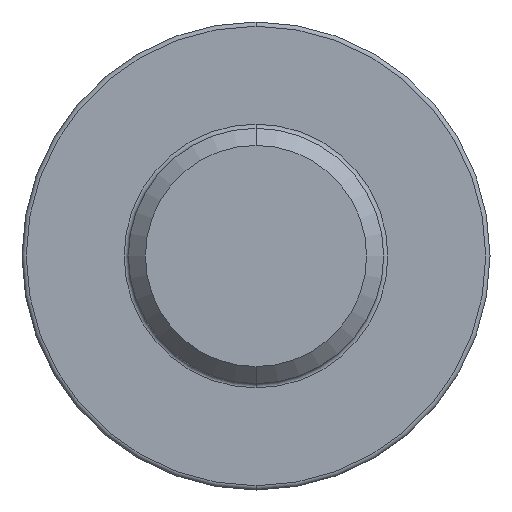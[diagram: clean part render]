
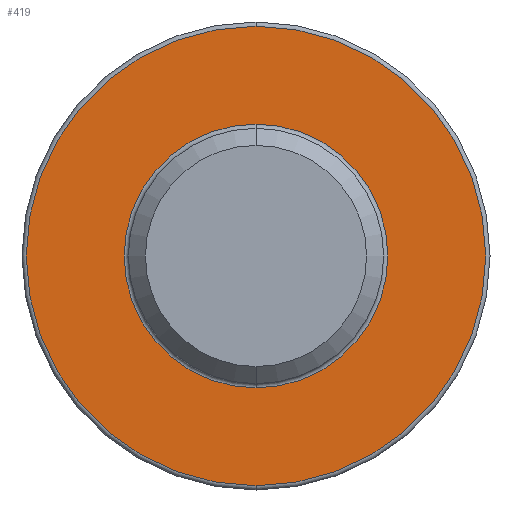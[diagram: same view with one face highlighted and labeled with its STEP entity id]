
A CAD part, front view. The second image highlights one B-rep face of the part: STEP entity #419.
In plain terms, the highlighted planar face has unit normal (0, -1, 0).
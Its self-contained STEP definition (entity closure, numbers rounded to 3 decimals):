
#29 = ORIENTED_EDGE ( 'NONE', *, *, #157, .T. ) ;
#38 = VERTEX_POINT ( 'NONE', #529 ) ;
#46 = EDGE_CURVE ( 'NONE', #860, #38, #479, .T. ) ;
#48 = DIRECTION ( 'NONE',  ( 0., -1., 0. ) ) ;
#86 = AXIS2_PLACEMENT_3D ( 'NONE', #88, #353, #94 ) ;
#88 = CARTESIAN_POINT ( 'NONE',  ( 1.5, -1.6, 0. ) ) ;
#94 = DIRECTION ( 'NONE',  ( 0., 0., 1. ) ) ;
#150 = AXIS2_PLACEMENT_3D ( 'NONE', #466, #341, #535 ) ;
#157 = EDGE_CURVE ( 'NONE', #522, #797, #407, .T. ) ;
#194 = CIRCLE ( 'NONE', #426, 2.7 ) ;
#203 = EDGE_CURVE ( 'NONE', #797, #522, #377, .T. ) ;
#221 = AXIS2_PLACEMENT_3D ( 'NONE', #459, #48, #316 ) ;
#227 = DIRECTION ( 'NONE',  ( 0., -1., 0. ) ) ;
#257 = EDGE_LOOP ( 'NONE', ( #530, #655 ) ) ;
#314 = CARTESIAN_POINT ( 'NONE',  ( 0., -1.6, -1.55 ) ) ;
#316 = DIRECTION ( 'NONE',  ( 0., 0., 1. ) ) ;
#330 = DIRECTION ( 'NONE',  ( 0., 0., 1. ) ) ;
#341 = DIRECTION ( 'NONE',  ( 0., 1., 0. ) ) ;
#353 = DIRECTION ( 'NONE',  ( 0., 1., 0. ) ) ;
#377 = CIRCLE ( 'NONE', #150, 1.55 ) ;
#393 = EDGE_CURVE ( 'NONE', #38, #860, #194, .T. ) ;
#397 = DIRECTION ( 'NONE',  ( 0., 1., 0. ) ) ;
#407 = CIRCLE ( 'NONE', #436, 1.55 ) ;
#417 = CARTESIAN_POINT ( 'NONE',  ( 0., -1.6, 0. ) ) ;
#419 = ADVANCED_FACE ( 'NONE', ( #571, #639 ), #850, .F. ) ;
#426 = AXIS2_PLACEMENT_3D ( 'NONE', #417, #227, #497 ) ;
#436 = AXIS2_PLACEMENT_3D ( 'NONE', #543, #397, #330 ) ;
#459 = CARTESIAN_POINT ( 'NONE',  ( 0., -1.6, 0. ) ) ;
#466 = CARTESIAN_POINT ( 'NONE',  ( 0., -1.6, 0. ) ) ;
#479 = CIRCLE ( 'NONE', #221, 2.7 ) ;
#497 = DIRECTION ( 'NONE',  ( 0., 0., 1. ) ) ;
#522 = VERTEX_POINT ( 'NONE', #314 ) ;
#529 = CARTESIAN_POINT ( 'NONE',  ( 0., -1.6, -2.7 ) ) ;
#530 = ORIENTED_EDGE ( 'NONE', *, *, #46, .T. ) ;
#535 = DIRECTION ( 'NONE',  ( 0., 0., 1. ) ) ;
#543 = CARTESIAN_POINT ( 'NONE',  ( 0., -1.6, 0. ) ) ;
#571 = FACE_BOUND ( 'NONE', #686, .T. ) ;
#639 = FACE_OUTER_BOUND ( 'NONE', #257, .T. ) ;
#655 = ORIENTED_EDGE ( 'NONE', *, *, #393, .T. ) ;
#686 = EDGE_LOOP ( 'NONE', ( #782, #29 ) ) ;
#782 = ORIENTED_EDGE ( 'NONE', *, *, #203, .T. ) ;
#797 = VERTEX_POINT ( 'NONE', #798 ) ;
#798 = CARTESIAN_POINT ( 'NONE',  ( 0., -1.6, 1.55 ) ) ;
#808 = CARTESIAN_POINT ( 'NONE',  ( 0., -1.6, 2.7 ) ) ;
#850 = PLANE ( 'NONE',  #86 ) ;
#860 = VERTEX_POINT ( 'NONE', #808 ) ;
